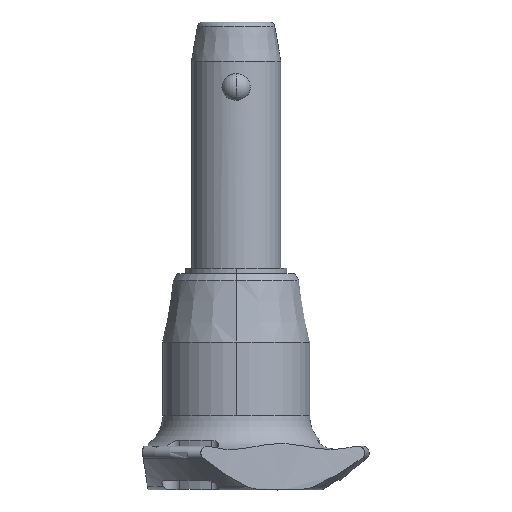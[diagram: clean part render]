
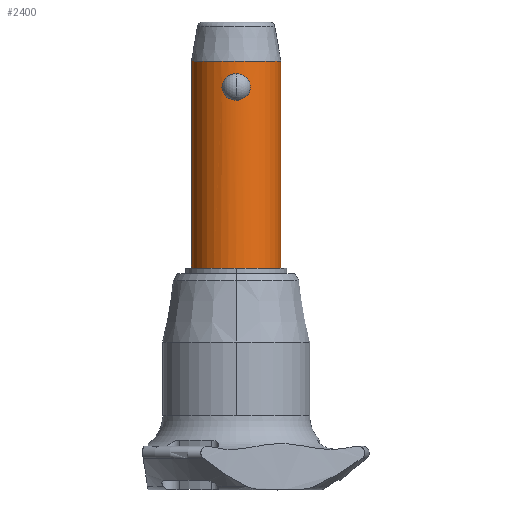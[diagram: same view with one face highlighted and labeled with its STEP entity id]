
A CAD part, front view. The second image highlights one B-rep face of the part: STEP entity #2400.
In plain terms, the highlighted cylindrical face has radius 8 mm (diameter 16 mm), a partial arc.
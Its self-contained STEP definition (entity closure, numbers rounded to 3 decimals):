
#18 = CIRCLE ( 'NONE', #155, 8. ) ;
#94 = CARTESIAN_POINT ( 'NONE',  ( 0.326, -7.995, 4.761 ) ) ;
#118 = EDGE_CURVE ( 'NONE', #129, #986, #508, .T. ) ;
#129 = VERTEX_POINT ( 'NONE', #1138 ) ;
#138 = CARTESIAN_POINT ( 'NONE',  ( 2.529, -7.59, 2.71 ) ) ;
#153 = CARTESIAN_POINT ( 'NONE',  ( 0., -8., 0. ) ) ;
#155 = AXIS2_PLACEMENT_3D ( 'NONE', #2770, #524, #1683 ) ;
#163 = DIRECTION ( 'NONE',  ( 0., 0., 1. ) ) ;
#180 = VERTEX_POINT ( 'NONE', #1343 ) ;
#191 = CARTESIAN_POINT ( 'NONE',  ( -2.546, -7.584, 2.553 ) ) ;
#268 = VERTEX_POINT ( 'NONE', #1213 ) ;
#323 = CARTESIAN_POINT ( 'NONE',  ( 1.529, -7.854, 4.312 ) ) ;
#340 = CARTESIAN_POINT ( 'NONE',  ( 1.657, -7.827, 0.558 ) ) ;
#363 = EDGE_CURVE ( 'NONE', #1847, #268, #2724, .T. ) ;
#383 = CARTESIAN_POINT ( 'NONE',  ( 8., 0., -30. ) ) ;
#404 = CARTESIAN_POINT ( 'NONE',  ( -1.107, -7.924, 4.548 ) ) ;
#450 = DIRECTION ( 'NONE',  ( 0., 0., 1. ) ) ;
#507 = CARTESIAN_POINT ( 'NONE',  ( -8., 0., 7. ) ) ;
#508 = LINE ( 'NONE', #1185, #1872 ) ;
#524 = DIRECTION ( 'NONE',  ( 0., 0., -1. ) ) ;
#550 = FACE_OUTER_BOUND ( 'NONE', #785, .T. ) ;
#603 = CARTESIAN_POINT ( 'NONE',  ( 1.66, -7.827, 4.215 ) ) ;
#614 = CARTESIAN_POINT ( 'NONE',  ( 0., -8., 0. ) ) ;
#632 = CARTESIAN_POINT ( 'NONE',  ( -2.003, -7.746, 3.882 ) ) ;
#645 = CARTESIAN_POINT ( 'NONE',  ( -0.326, -7.995, 4.761 ) ) ;
#658 = CARTESIAN_POINT ( 'NONE',  ( -1.658, -7.827, 4.216 ) ) ;
#739 = EDGE_CURVE ( 'NONE', #268, #1847, #2418, .T. ) ;
#771 = CARTESIAN_POINT ( 'NONE',  ( 2.41, -7.629, 3.184 ) ) ;
#785 = EDGE_LOOP ( 'NONE', ( #1451, #2807, #1623, #2218 ) ) ;
#815 = CARTESIAN_POINT ( 'NONE',  ( 2.461, -7.612, 3.027 ) ) ;
#825 = CARTESIAN_POINT ( 'NONE',  ( 0., 0., -30. ) ) ;
#829 = CARTESIAN_POINT ( 'NONE',  ( 2.408, -7.629, 1.586 ) ) ;
#848 = EDGE_CURVE ( 'NONE', #180, #986, #1221, .T. ) ;
#851 = CARTESIAN_POINT ( 'NONE',  ( -2.193, -7.694, 3.623 ) ) ;
#932 = EDGE_CURVE ( 'NONE', #1667, #129, #18, .T. ) ;
#986 = VERTEX_POINT ( 'NONE', #507 ) ;
#1000 = CARTESIAN_POINT ( 'NONE',  ( 2.46, -7.613, 1.742 ) ) ;
#1025 = LINE ( 'NONE', #1631, #1414 ) ;
#1030 = CARTESIAN_POINT ( 'NONE',  ( 2.211, -7.69, 3.626 ) ) ;
#1084 = CARTESIAN_POINT ( 'NONE',  ( -1.527, -7.854, 4.313 ) ) ;
#1099 = CARTESIAN_POINT ( 'NONE',  ( -2.529, -7.59, 2.064 ) ) ;
#1122 = DIRECTION ( 'NONE',  ( 0., 0., -1. ) ) ;
#1137 = CARTESIAN_POINT ( 'NONE',  ( 0., 0., 7. ) ) ;
#1138 = CARTESIAN_POINT ( 'NONE',  ( -8., 0., -30. ) ) ;
#1165 = DIRECTION ( 'NONE',  ( 1., 0., 0. ) ) ;
#1185 = CARTESIAN_POINT ( 'NONE',  ( -8., 0., -30. ) ) ;
#1203 = CARTESIAN_POINT ( 'NONE',  ( 2.528, -7.59, 2.058 ) ) ;
#1213 = CARTESIAN_POINT ( 'NONE',  ( 0., -8., 0. ) ) ;
#1214 = CARTESIAN_POINT ( 'NONE',  ( 2.004, -7.746, 0.894 ) ) ;
#1221 = CIRCLE ( 'NONE', #2672, 8. ) ;
#1230 = CARTESIAN_POINT ( 'NONE',  ( 2.546, -7.584, 2.22 ) ) ;
#1259 = CARTESIAN_POINT ( 'NONE',  ( 1.894, -7.773, 0.773 ) ) ;
#1298 = CARTESIAN_POINT ( 'NONE',  ( -0.803, -7.961, 4.661 ) ) ;
#1329 = CARTESIAN_POINT ( 'NONE',  ( -2.276, -7.67, 3.482 ) ) ;
#1343 = CARTESIAN_POINT ( 'NONE',  ( 8., 0., 7. ) ) ;
#1414 = VECTOR ( 'NONE', #2257, 1000. ) ;
#1450 = CARTESIAN_POINT ( 'NONE',  ( 1.529, -7.854, 0.463 ) ) ;
#1451 = ORIENTED_EDGE ( 'NONE', *, *, #118, .F. ) ;
#1497 = CARTESIAN_POINT ( 'NONE',  ( 0.804, -7.961, 4.661 ) ) ;
#1517 = AXIS2_PLACEMENT_3D ( 'NONE', #825, #163, #2621 ) ;
#1555 = CARTESIAN_POINT ( 'NONE',  ( -2.547, -7.584, 2.229 ) ) ;
#1623 = ORIENTED_EDGE ( 'NONE', *, *, #1877, .T. ) ;
#1631 = CARTESIAN_POINT ( 'NONE',  ( 8., 0., -30. ) ) ;
#1659 = CARTESIAN_POINT ( 'NONE',  ( 0., -8., 4.775 ) ) ;
#1667 = VERTEX_POINT ( 'NONE', #383 ) ;
#1683 = DIRECTION ( 'NONE',  ( 0., -1., 0. ) ) ;
#1704 = CARTESIAN_POINT ( 'NONE',  ( 0.652, -7.979, 0.058 ) ) ;
#1718 = CARTESIAN_POINT ( 'NONE',  ( -1.896, -7.773, 4.001 ) ) ;
#1719 = CARTESIAN_POINT ( 'NONE',  ( 2.547, -7.584, 2.549 ) ) ;
#1731 = CARTESIAN_POINT ( 'NONE',  ( -2.529, -7.59, 2.716 ) ) ;
#1744 = CARTESIAN_POINT ( 'NONE',  ( -1.254, -7.902, 0.297 ) ) ;
#1771 = CARTESIAN_POINT ( 'NONE',  ( -1.53, -7.854, 0.464 ) ) ;
#1847 = VERTEX_POINT ( 'NONE', #2138 ) ;
#1872 = VECTOR ( 'NONE', #450, 1000. ) ;
#1874 = CARTESIAN_POINT ( 'NONE',  ( 0.164, -8., 4.775 ) ) ;
#1877 = EDGE_CURVE ( 'NONE', #1667, #180, #1025, .T. ) ;
#1921 = CARTESIAN_POINT ( 'NONE',  ( 1.108, -7.924, 4.548 ) ) ;
#1962 = CARTESIAN_POINT ( 'NONE',  ( -2.459, -7.613, 3.036 ) ) ;
#1991 = CARTESIAN_POINT ( 'NONE',  ( -2.016, -7.746, 0.883 ) ) ;
#2097 = CARTESIAN_POINT ( 'NONE',  ( 0.645, -7.976, 4.704 ) ) ;
#2107 = CYLINDRICAL_SURFACE ( 'NONE', #1517, 8. ) ;
#2111 = CARTESIAN_POINT ( 'NONE',  ( 1.253, -7.903, 4.478 ) ) ;
#2138 = CARTESIAN_POINT ( 'NONE',  ( 0., -8., 4.775 ) ) ;
#2141 = CARTESIAN_POINT ( 'NONE',  ( 2.275, -7.67, 1.291 ) ) ;
#2156 = CARTESIAN_POINT ( 'NONE',  ( 2.194, -7.694, 1.153 ) ) ;
#2167 = CARTESIAN_POINT ( 'NONE',  ( -2.461, -7.612, 1.746 ) ) ;
#2218 = ORIENTED_EDGE ( 'NONE', *, *, #848, .T. ) ;
#2223 = CARTESIAN_POINT ( 'NONE',  ( -0.164, -8., 4.775 ) ) ;
#2257 = DIRECTION ( 'NONE',  ( 0., 0., 1. ) ) ;
#2332 = CARTESIAN_POINT ( 'NONE',  ( 1.252, -7.903, 0.296 ) ) ;
#2346 = CARTESIAN_POINT ( 'NONE',  ( 1.105, -7.925, 0.226 ) ) ;
#2368 = EDGE_LOOP ( 'NONE', ( #2728, #2825 ) ) ;
#2400 = ADVANCED_FACE ( 'NONE', ( #550, #2827 ), #2107, .T. ) ;
#2404 = CARTESIAN_POINT ( 'NONE',  ( -1.659, -7.827, 0.559 ) ) ;
#2418 = B_SPLINE_CURVE_WITH_KNOTS ( 'NONE', 3,
 ( #153, #2832, #1704, #2346, #2332, #1450, #340, #1259, #1214, #2156, #2141, #829, #1000, #1203, #1230, #1719, #138, #815, #771, #1030, #2788, #603, #323, #2111, #1921, #1497, #2097, #94, #1874, #1659 ),
 .UNSPECIFIED., .F., .F.,
 ( 4, 2, 2, 2, 2, 2, 2, 2, 2, 2, 2, 2, 2, 2, 4 ),
 ( 0.008, 0.009, 0.009, 0.01, 0.01, 0.011, 0.011, 0.012, 0.012, 0.013, 0.014, 0.014, 0.015, 0.015, 0.016 ),
 .UNSPECIFIED. ) ;
#2431 = CARTESIAN_POINT ( 'NONE',  ( -2.211, -7.69, 1.148 ) ) ;
#2445 = CARTESIAN_POINT ( 'NONE',  ( -0.652, -7.979, 0.058 ) ) ;
#2621 = DIRECTION ( 'NONE',  ( 1., 0., 0. ) ) ;
#2625 = CARTESIAN_POINT ( 'NONE',  ( -2.411, -7.628, 1.592 ) ) ;
#2640 = CARTESIAN_POINT ( 'NONE',  ( -1.252, -7.903, 4.479 ) ) ;
#2653 = CARTESIAN_POINT ( 'NONE',  ( 0., -8., 4.775 ) ) ;
#2664 = CARTESIAN_POINT ( 'NONE',  ( -1.106, -7.925, 0.226 ) ) ;
#2672 = AXIS2_PLACEMENT_3D ( 'NONE', #1137, #1122, #1165 ) ;
#2724 = B_SPLINE_CURVE_WITH_KNOTS ( 'NONE', 3,
 ( #2653, #2223, #645, #2859, #1298, #404, #2640, #1084, #658, #1718, #632, #851, #1329, #2846, #1962, #1731, #191, #1555, #1099, #2167, #2625, #2431, #1991, #2404, #1771, #1744, #2664, #2445, #2888, #614 ),
 .UNSPECIFIED., .F., .F.,
 ( 4, 2, 2, 2, 2, 2, 2, 2, 2, 2, 2, 2, 2, 2, 4 ),
 ( 0., 0., 0.001, 0.001, 0.002, 0.002, 0.003, 0.003, 0.004, 0.004, 0.005, 0.006, 0.006, 0.007, 0.008 ),
 .UNSPECIFIED. ) ;
#2728 = ORIENTED_EDGE ( 'NONE', *, *, #363, .F. ) ;
#2770 = CARTESIAN_POINT ( 'NONE',  ( 0., 0., -30. ) ) ;
#2788 = CARTESIAN_POINT ( 'NONE',  ( 2.016, -7.746, 3.891 ) ) ;
#2807 = ORIENTED_EDGE ( 'NONE', *, *, #932, .F. ) ;
#2825 = ORIENTED_EDGE ( 'NONE', *, *, #739, .F. ) ;
#2827 = FACE_BOUND ( 'NONE', #2368, .T. ) ;
#2832 = CARTESIAN_POINT ( 'NONE',  ( 0.324, -8., 0. ) ) ;
#2846 = CARTESIAN_POINT ( 'NONE',  ( -2.408, -7.629, 3.189 ) ) ;
#2859 = CARTESIAN_POINT ( 'NONE',  ( -0.645, -7.976, 4.704 ) ) ;
#2888 = CARTESIAN_POINT ( 'NONE',  ( -0.324, -8., 0. ) ) ;
